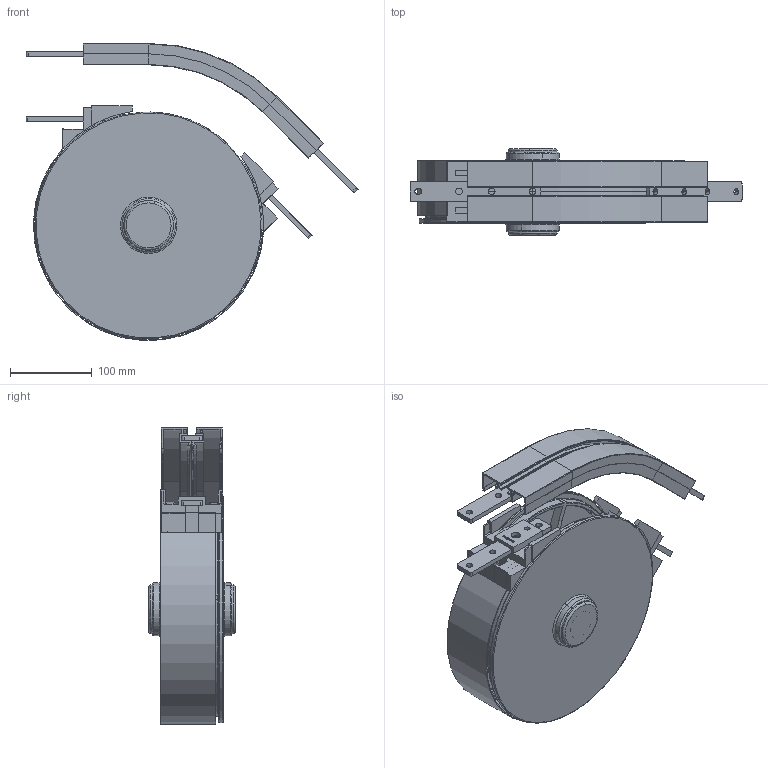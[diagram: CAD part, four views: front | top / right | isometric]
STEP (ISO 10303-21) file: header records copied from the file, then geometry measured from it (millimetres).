
FILE_DESCRIPTION (( 'STEP AP214' ), '1' );
FILE_NAME ('FCWB45R170A.STEP', '2012-04-04T09:45:09', ( 'gs' ), ( 'Microsoft' ), 'SwSTEP 2.0', 'SolidWorks 2011', '' );
FILE_SCHEMA (( 'AUTOMOTIVE_DESIGN' ));
Length unit declared in the file: millimetre
Products named in the file (12): protection_45; FACS-25X160-M2; FCWB90R170-CB_45<Brut d''usinage>; WH278063; FAEC-WH_Default; 6004ZZ; 20 ExternalCirclip; FACS-25X140A_Default; FC-WH103001-0_Default; WHA-FM001_Default; WH08001A-3_Default; FCWB45R170A
Assembly tree (25 placements, depth 2):
  FCWB45R170A
    protection_45
    FAEC-WH_Default  x2
    FACS-25X160-M2  x2
    WH278063  x2
    WHA-FM001_Default
    WH08001A-3_Default  x2
    6004ZZ  x4
    FC-WH103001-0_Default  x2
    20 ExternalCirclip  x6
    FACS-25X140A_Default  x2
    FCWB90R170-CB_45<Brut d''usinage>
Bounding box: 406.15 x 105.6 x 363.32 mm (x, y, z)
Volume: 1667464.4 mm3; surface area: 721434.9 mm2
Topology: 25 solids, 25 shells, 1308 faces, 3396 edges, 2204 vertices
Faces by surface type: plane 674, cylinder 446, torus 94, bspline 64, cone 30
Entity records: 26727 total; most frequent: CARTESIAN_POINT 7977, ORIENTED_EDGE 3682, DIRECTION 3661, EDGE_CURVE 1841, AXIS2_PLACEMENT_3D 1266, VERTEX_POINT 1172, LINE 1129, VECTOR 1129
